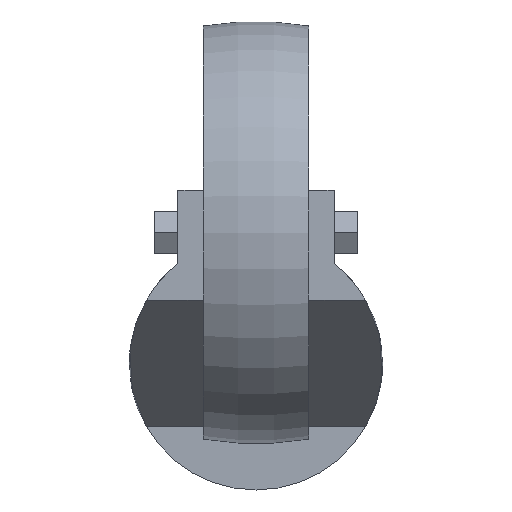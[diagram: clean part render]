
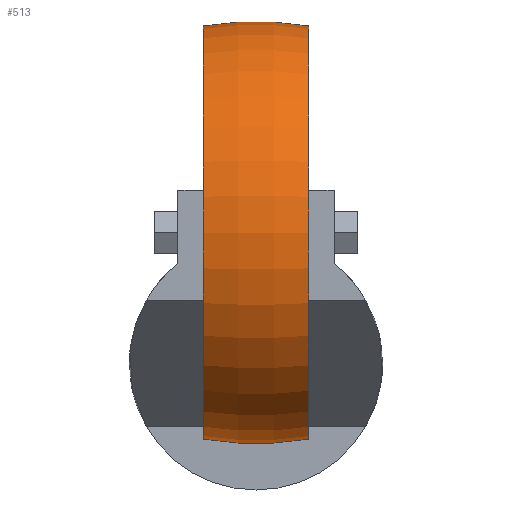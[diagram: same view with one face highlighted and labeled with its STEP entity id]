
A CAD part, front view. The second image highlights one B-rep face of the part: STEP entity #513.
In plain terms, the highlighted toroidal (fillet/blend) face has major radius 25 mm and minor radius 75 mm.
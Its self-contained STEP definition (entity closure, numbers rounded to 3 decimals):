
#4 = ORIENTED_EDGE ( 'NONE', *, *, #872, .F. ) ;
#6 = CIRCLE ( 'NONE', #1119, 75. ) ;
#26 = CIRCLE ( 'NONE', #490, 48.951 ) ;
#33 = DIRECTION ( 'NONE',  ( 0., -1., 0. ) ) ;
#79 = EDGE_LOOP ( 'NONE', ( #90, #771, #530, #4 ) ) ;
#90 = ORIENTED_EDGE ( 'NONE', *, *, #436, .F. ) ;
#116 = TOROIDAL_SURFACE ( 'NONE', #504, -25., 75. ) ;
#135 = CIRCLE ( 'NONE', #783, 48.951 ) ;
#169 = CIRCLE ( 'NONE', #318, 75. ) ;
#180 = VERTEX_POINT ( 'NONE', #198 ) ;
#198 = CARTESIAN_POINT ( 'NONE',  ( -12.5, -78., -17.951 ) ) ;
#221 = DIRECTION ( 'NONE',  ( 0., 1., 0. ) ) ;
#298 = DIRECTION ( 'NONE',  ( 0., 0., 1. ) ) ;
#318 = AXIS2_PLACEMENT_3D ( 'NONE', #1106, #33, #1099 ) ;
#357 = VERTEX_POINT ( 'NONE', #577 ) ;
#380 = CARTESIAN_POINT ( 'NONE',  ( -12.5, -78., 31. ) ) ;
#403 = DIRECTION ( 'NONE',  ( -1., 0., 0. ) ) ;
#418 = EDGE_CURVE ( 'NONE', #597, #941, #169, .T. ) ;
#436 = EDGE_CURVE ( 'NONE', #357, #180, #6, .T. ) ;
#476 = FACE_OUTER_BOUND ( 'NONE', #79, .T. ) ;
#490 = AXIS2_PLACEMENT_3D ( 'NONE', #380, #563, #732 ) ;
#504 = AXIS2_PLACEMENT_3D ( 'NONE', #825, #403, #298 ) ;
#513 = ADVANCED_FACE ( 'NONE', ( #476 ), #116, .T. ) ;
#530 = ORIENTED_EDGE ( 'NONE', *, *, #418, .T. ) ;
#563 = DIRECTION ( 'NONE',  ( -1., 0., 0. ) ) ;
#571 = CARTESIAN_POINT ( 'NONE',  ( -12.5, -78., 79.951 ) ) ;
#577 = CARTESIAN_POINT ( 'NONE',  ( 12.5, -78., -17.951 ) ) ;
#597 = VERTEX_POINT ( 'NONE', #676 ) ;
#676 = CARTESIAN_POINT ( 'NONE',  ( 12.5, -78., 79.951 ) ) ;
#731 = DIRECTION ( 'NONE',  ( 0., 0., 1. ) ) ;
#732 = DIRECTION ( 'NONE',  ( 0., 0., 1. ) ) ;
#765 = CARTESIAN_POINT ( 'NONE',  ( 12.5, -78., 31. ) ) ;
#771 = ORIENTED_EDGE ( 'NONE', *, *, #1063, .T. ) ;
#783 = AXIS2_PLACEMENT_3D ( 'NONE', #765, #1108, #864 ) ;
#825 = CARTESIAN_POINT ( 'NONE',  ( 0., -78., 31. ) ) ;
#840 = CARTESIAN_POINT ( 'NONE',  ( 0., -78., 56. ) ) ;
#864 = DIRECTION ( 'NONE',  ( 0., 0., 1. ) ) ;
#872 = EDGE_CURVE ( 'NONE', #180, #941, #26, .T. ) ;
#941 = VERTEX_POINT ( 'NONE', #571 ) ;
#1063 = EDGE_CURVE ( 'NONE', #357, #597, #135, .T. ) ;
#1099 = DIRECTION ( 'NONE',  ( 0., 0., -1. ) ) ;
#1106 = CARTESIAN_POINT ( 'NONE',  ( 0., -78., 6. ) ) ;
#1108 = DIRECTION ( 'NONE',  ( -1., 0., 0. ) ) ;
#1119 = AXIS2_PLACEMENT_3D ( 'NONE', #840, #221, #731 ) ;
